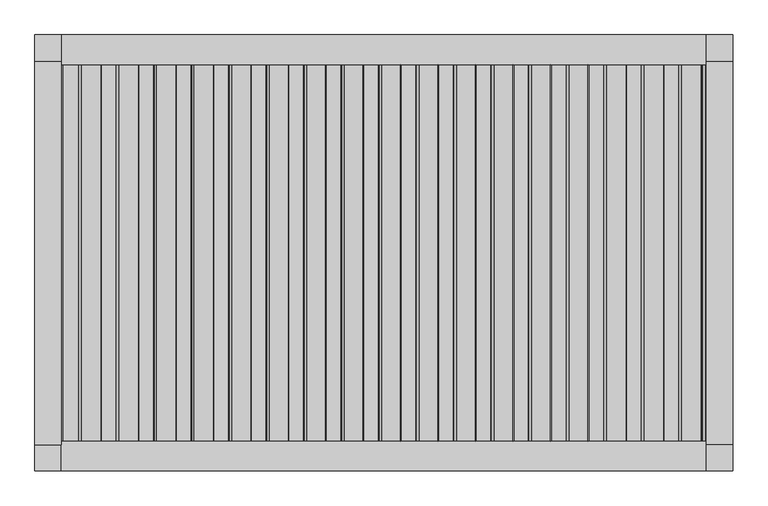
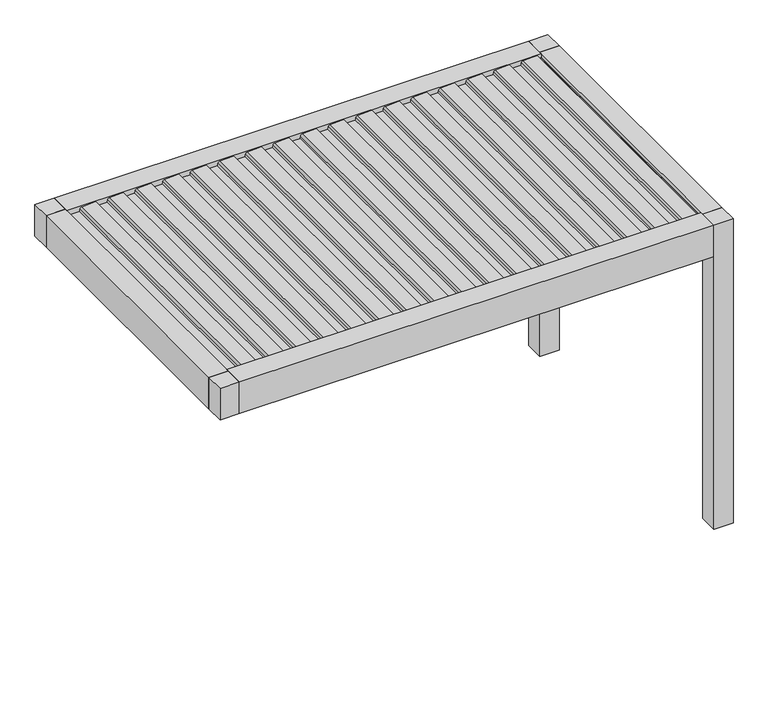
"""IFC4 building model written with IfcOpenShell, lengths in millimetres: proxy geometry, Renson_Camargue_Skye_Facade-Mounted_Patio covers : Renson_Camargue_Skye_Facade-Mounted_Patio covers."""

from ifc_helpers import new_model, si_unit, point, frame, frame_2d, origin, origin_with_axes, place, context, project, spatial, polyline, circle_curve, trimmed, segment, composite_curve, outline, extrude, source, transform, mapped, element, save


def generic_models_d841620f(model_context):
    return source(origin(), model_context, "Body", "SweptSolid", [
        extrude(outline(composite_curve([segment(polyline([(2458.35, 1573.7338351), (2486.01198, 1576.1539448), (2487.3970364, 1604.9891952), (2506.8911096, 1601.5518641), (2501.6075693, 1491.5547493)]), True, "CONTINUOUS"), segment(trimmed(circle_curve(frame_2d((2486.6248435, 1492.2744212)), 15.0), [point((2501.6075693, 1491.5547493))], [point((2489.2295662, 1477.5023049))], False, "CARTESIAN"), True, "CONTINUOUS"), segment(polyline([(2489.2295662, 1477.5023049), (2470.0, 1474.1116136), (2470.0, 1386.3758376), (2487.0788237, 1383.3643801), (2486.3450182, 1368.0874097), (2458.35, 1365.6381629), (2458.35, 1573.7338351)]), True, "CONTINUOUS")], self_intersect=False)), frame((0.0, -1080.0, 0.0), z_axis=(0.0, 1.0, 0.0), x_axis=(0.0, 0.0, 1.0)), (0.0, 0.0, 1.0), 2160.0),
        extrude(outline(composite_curve([segment(polyline([(2458.35, 1358.7230303), (2486.01198, 1361.14314), (2487.3970364, 1389.9783904), (2506.8911096, 1386.5410594), (2501.6075693, 1276.5439445)]), True, "CONTINUOUS"), segment(trimmed(circle_curve(frame_2d((2486.6248435, 1277.2636164)), 15.0), [point((2501.6075693, 1276.5439445))], [point((2489.2295662, 1262.4915001))], False, "CARTESIAN"), True, "CONTINUOUS"), segment(polyline([(2489.2295662, 1262.4915001), (2470.0, 1259.1008088), (2470.0, 1171.3650328), (2487.0788237, 1168.3535754), (2486.3450182, 1153.0766049), (2458.35, 1150.6273582), (2458.35, 1358.7230303)]), True, "CONTINUOUS")], self_intersect=False)), frame((0.0, -1080.0, 0.0), z_axis=(0.0, 1.0, 0.0), x_axis=(0.0, 0.0, 1.0)), (0.0, 0.0, 1.0), 2160.0),
        extrude(outline(composite_curve([segment(polyline([(2458.35, 1143.7122255), (2486.01198, 1146.1323352), (2487.3970364, 1174.9675857), (2506.8911096, 1171.5302546), (2501.6075693, 1061.5331397)]), True, "CONTINUOUS"), segment(trimmed(circle_curve(frame_2d((2486.6248435, 1062.2528117)), 15.0), [point((2501.6075693, 1061.5331397))], [point((2489.2295662, 1047.4806954))], False, "CARTESIAN"), True, "CONTINUOUS"), segment(polyline([(2489.2295662, 1047.4806954), (2470.0, 1044.090004), (2470.0, 956.354228), (2487.0788237, 953.3427706), (2486.3450182, 938.0658001), (2458.35, 935.6165534), (2458.35, 1143.7122255)]), True, "CONTINUOUS")], self_intersect=False)), frame((0.0, -1080.0, 0.0), z_axis=(0.0, 1.0, 0.0), x_axis=(0.0, 0.0, 1.0)), (0.0, 0.0, 1.0), 2160.0),
        extrude(outline(composite_curve([segment(polyline([(2458.35, 928.7014208), (2486.01198, 931.1215304), (2487.3970364, 959.9567809), (2506.8911096, 956.5194498), (2501.6075693, 846.5223349)]), True, "CONTINUOUS"), segment(trimmed(circle_curve(frame_2d((2486.6248435, 847.2420069)), 15.0), [point((2501.6075693, 846.5223349))], [point((2489.2295662, 832.4698906))], False, "CARTESIAN"), True, "CONTINUOUS"), segment(polyline([(2489.2295662, 832.4698906), (2470.0, 829.0791992), (2470.0, 741.3434232), (2487.0788237, 738.3319658), (2486.3450182, 723.0549953), (2458.35, 720.6057486), (2458.35, 928.7014208)]), True, "CONTINUOUS")], self_intersect=False)), frame((0.0, -1080.0, 0.0), z_axis=(0.0, 1.0, 0.0), x_axis=(0.0, 0.0, 1.0)), (0.0, 0.0, 1.0), 2160.0),
        extrude(outline(composite_curve([segment(polyline([(2458.35, 713.690616), (2486.01198, 716.1107256), (2487.3970364, 744.9459761), (2506.8911096, 741.508645), (2501.6075693, 631.5115302)]), True, "CONTINUOUS"), segment(trimmed(circle_curve(frame_2d((2486.6248435, 632.2312021)), 15.0), [point((2501.6075693, 631.5115302))], [point((2489.2295662, 617.4590858))], False, "CARTESIAN"), True, "CONTINUOUS"), segment(polyline([(2489.2295662, 617.4590858), (2470.0, 614.0683945), (2470.0, 526.3326184), (2487.0788237, 523.321161), (2486.3450182, 508.0441905), (2458.35, 505.5949438), (2458.35, 713.690616)]), True, "CONTINUOUS")], self_intersect=False)), frame((0.0, -1080.0, 0.0), z_axis=(0.0, 1.0, 0.0), x_axis=(0.0, 0.0, 1.0)), (0.0, 0.0, 1.0), 2160.0),
        extrude(outline(composite_curve([segment(polyline([(2458.35, 498.6798112), (2486.01198, 501.0999209), (2487.3970364, 529.9351713), (2506.8911096, 526.4978402), (2501.6075693, 416.5007254)]), True, "CONTINUOUS"), segment(trimmed(circle_curve(frame_2d((2486.6248435, 417.2203973)), 15.0), [point((2501.6075693, 416.5007254))], [point((2489.2295662, 402.448281))], False, "CARTESIAN"), True, "CONTINUOUS"), segment(polyline([(2489.2295662, 402.448281), (2470.0, 399.0575897), (2470.0, 311.3218136), (2487.0788237, 308.3103562), (2486.3450182, 293.0333858), (2458.35, 290.584139), (2458.35, 498.6798112)]), True, "CONTINUOUS")], self_intersect=False)), frame((0.0, -1080.0, 0.0), z_axis=(0.0, 1.0, 0.0), x_axis=(0.0, 0.0, 1.0)), (0.0, 0.0, 1.0), 2160.0),
        extrude(outline(composite_curve([segment(polyline([(2458.35, 283.6690064), (2486.01198, 286.0891161), (2487.3970364, 314.9243665), (2506.8911096, 311.4870355), (2501.6075693, 201.4899206)]), True, "CONTINUOUS"), segment(trimmed(circle_curve(frame_2d((2486.6248435, 202.2095925)), 15.0), [point((2501.6075693, 201.4899206))], [point((2489.2295662, 187.4374762))], False, "CARTESIAN"), True, "CONTINUOUS"), segment(polyline([(2489.2295662, 187.4374762), (2470.0, 184.0467849), (2470.0, 96.3110089), (2487.0788237, 93.2995515), (2486.3450182, 78.022581), (2458.35, 75.5733343), (2458.35, 283.6690064)]), True, "CONTINUOUS")], self_intersect=False)), frame((0.0, -1080.0, 0.0), z_axis=(0.0, 1.0, 0.0), x_axis=(0.0, 0.0, 1.0)), (0.0, 0.0, 1.0), 2160.0),
        extrude(outline(composite_curve([segment(polyline([(2458.35, 68.6582016), (2486.01198, 71.0783113), (2487.3970364, 99.9135617), (2506.8911096, 96.4762307), (2501.6075693, -13.5208842)]), True, "CONTINUOUS"), segment(trimmed(circle_curve(frame_2d((2486.6248435, -12.8012122)), 15.0), [point((2501.6075693, -13.5208842))], [point((2489.2295662, -27.5733285))], False, "CARTESIAN"), True, "CONTINUOUS"), segment(polyline([(2489.2295662, -27.5733285), (2470.0, -30.9640199), (2470.0, -118.6997959), (2487.0788237, -121.7112533), (2486.3450182, -136.9882238), (2458.35, -139.4374705), (2458.35, 68.6582016)]), True, "CONTINUOUS")], self_intersect=False)), frame((0.0, -1080.0, 0.0), z_axis=(0.0, 1.0, 0.0), x_axis=(0.0, 0.0, 1.0)), (0.0, 0.0, 1.0), 2160.0),
        extrude(outline(composite_curve([segment(polyline([(2458.35, -146.3526032), (2486.01198, -143.9324935), (2487.3970364, -115.097243), (2506.8911096, -118.5345741), (2501.6075693, -228.531689)]), True, "CONTINUOUS"), segment(trimmed(circle_curve(frame_2d((2486.6248435, -227.812017)), 15.0), [point((2501.6075693, -228.531689))], [point((2489.2295662, -242.5841333))], False, "CARTESIAN"), True, "CONTINUOUS"), segment(polyline([(2489.2295662, -242.5841333), (2470.0, -245.9748247), (2470.0, -333.7106007), (2487.0788237, -336.7220581), (2486.3450182, -351.9990286), (2458.35, -354.4482753), (2458.35, -146.3526032)]), True, "CONTINUOUS")], self_intersect=False)), frame((0.0, -1080.0, 0.0), z_axis=(0.0, 1.0, 0.0), x_axis=(0.0, 0.0, 1.0)), (0.0, 0.0, 1.0), 2160.0),
        extrude(outline(composite_curve([segment(polyline([(2458.35, -361.3634079), (2486.01198, -358.9432983), (2487.3970364, -330.1080478), (2506.8911096, -333.5453789), (2501.6075693, -443.5424937)]), True, "CONTINUOUS"), segment(trimmed(circle_curve(frame_2d((2486.6248435, -442.8228218)), 15.0), [point((2501.6075693, -443.5424937))], [point((2489.2295662, -457.5949381))], False, "CARTESIAN"), True, "CONTINUOUS"), segment(polyline([(2489.2295662, -457.5949381), (2470.0, -460.9856294), (2470.0, -548.7214055), (2487.0788237, -551.7328629), (2486.3450182, -567.0098334), (2458.35, -569.4590801), (2458.35, -361.3634079)]), True, "CONTINUOUS")], self_intersect=False)), frame((0.0, -1080.0, 0.0), z_axis=(0.0, 1.0, 0.0), x_axis=(0.0, 0.0, 1.0)), (0.0, 0.0, 1.0), 2160.0),
        extrude(outline(composite_curve([segment(polyline([(2458.35, -576.3742127), (2486.01198, -573.9541031), (2487.3970364, -545.1188526), (2506.8911096, -548.5561837), (2501.6075693, -658.5532985)]), True, "CONTINUOUS"), segment(trimmed(circle_curve(frame_2d((2486.6248435, -657.8336266)), 15.0), [point((2501.6075693, -658.5532985))], [point((2489.2295662, -672.6057429))], False, "CARTESIAN"), True, "CONTINUOUS"), segment(polyline([(2489.2295662, -672.6057429), (2470.0, -675.9964342), (2470.0, -763.7322103), (2487.0788237, -766.7436677), (2486.3450182, -782.0206381), (2458.35, -784.4698849), (2458.35, -576.3742127)]), True, "CONTINUOUS")], self_intersect=False)), frame((0.0, -1080.0, 0.0), z_axis=(0.0, 1.0, 0.0), x_axis=(0.0, 0.0, 1.0)), (0.0, 0.0, 1.0), 2160.0),
        extrude(outline(composite_curve([segment(polyline([(2458.35, -791.3850175), (2486.01198, -788.9649078), (2487.3970364, -760.1296574), (2506.8911096, -763.5669885), (2501.6075693, -873.5641033)]), True, "CONTINUOUS"), segment(trimmed(circle_curve(frame_2d((2486.6248435, -872.8444314)), 15.0), [point((2501.6075693, -873.5641033))], [point((2489.2295662, -887.6165477))], False, "CARTESIAN"), True, "CONTINUOUS"), segment(polyline([(2489.2295662, -887.6165477), (2470.0, -891.007239), (2470.0, -978.743015), (2487.0788237, -981.7544725), (2486.3450182, -997.0314429), (2458.35, -999.4806897), (2458.35, -791.3850175)]), True, "CONTINUOUS")], self_intersect=False)), frame((0.0, -1080.0, 0.0), z_axis=(0.0, 1.0, 0.0), x_axis=(0.0, 0.0, 1.0)), (0.0, 0.0, 1.0), 2160.0),
        extrude(outline(composite_curve([segment(polyline([(2458.35, -1006.3958223), (2486.01198, -1003.9757126), (2487.3970364, -975.1404622), (2506.8911096, -978.5777932), (2501.6075693, -1088.5749081)]), True, "CONTINUOUS"), segment(trimmed(circle_curve(frame_2d((2486.6248435, -1087.8552362)), 15.0), [point((2501.6075693, -1088.5749081))], [point((2489.2295662, -1102.6273525))], False, "CARTESIAN"), True, "CONTINUOUS"), segment(polyline([(2489.2295662, -1102.6273525), (2470.0, -1106.0180438), (2470.0, -1193.7538198), (2487.0788237, -1196.7652772), (2486.3450182, -1212.0422477), (2458.35, -1214.4914944), (2458.35, -1006.3958223)]), True, "CONTINUOUS")], self_intersect=False)), frame((0.0, -1080.0, 0.0), z_axis=(0.0, 1.0, 0.0), x_axis=(0.0, 0.0, 1.0)), (0.0, 0.0, 1.0), 2160.0),
        extrude(outline(composite_curve([segment(polyline([(2458.35, -1221.4066271), (2486.01198, -1218.9865174), (2487.3970364, -1190.1512669), (2506.8911096, -1193.588598), (2501.6075693, -1303.5857129)]), True, "CONTINUOUS"), segment(trimmed(circle_curve(frame_2d((2486.6248435, -1302.8660409)), 15.0), [point((2501.6075693, -1303.5857129))], [point((2489.2295662, -1317.6381572))], False, "CARTESIAN"), True, "CONTINUOUS"), segment(polyline([(2489.2295662, -1317.6381572), (2470.0, -1321.0288486), (2470.0, -1408.7646246), (2487.0788237, -1411.776082), (2486.3450182, -1427.0530525), (2458.35, -1429.5022992), (2458.35, -1221.4066271)]), True, "CONTINUOUS")], self_intersect=False)), frame((0.0, -1080.0, 0.0), z_axis=(0.0, 1.0, 0.0), x_axis=(0.0, 0.0, 1.0)), (0.0, 0.0, 1.0), 2160.0),
        extrude(outline(composite_curve([segment(polyline([(2458.35, -1436.4174318), (2486.01198, -1433.9973222), (2487.3970364, -1405.1620717), (2506.8911096, -1408.5994028), (2501.6075693, -1518.5965176)]), True, "CONTINUOUS"), segment(trimmed(circle_curve(frame_2d((2486.6248435, -1517.8768457)), 15.0), [point((2501.6075693, -1518.5965176))], [point((2489.2295662, -1532.648962))], False, "CARTESIAN"), True, "CONTINUOUS"), segment(polyline([(2489.2295662, -1532.648962), (2470.0, -1536.0396534), (2470.0, -1623.7754294), (2487.0788237, -1626.7868868), (2486.3450182, -1642.0638573), (2458.35, -1644.513104), (2458.35, -1436.4174318)]), True, "CONTINUOUS")], self_intersect=False)), frame((0.0, -1080.0, 0.0), z_axis=(0.0, 1.0, 0.0), x_axis=(0.0, 0.0, 1.0)), (0.0, 0.0, 1.0), 2160.0),
        extrude(outline(composite_curve([segment(polyline([(2458.35, 1788.7446399), (2486.01198, 1791.1647495), (2487.3970364, 1820.0), (2506.8911096, 1816.5626689), (2501.6075693, 1706.5655541)]), True, "CONTINUOUS"), segment(trimmed(circle_curve(frame_2d((2486.6248435, 1707.285226)), 15.0), [point((2501.6075693, 1706.5655541))], [point((2489.2295662, 1692.5131097))], False, "CARTESIAN"), True, "CONTINUOUS"), segment(polyline([(2489.2295662, 1692.5131097), (2470.0, 1689.1224184), (2470.0, 1601.3866423), (2487.0788237, 1598.3751849), (2486.3450182, 1583.0982144), (2458.35, 1580.6489677), (2458.35, 1788.7446399)]), True, "CONTINUOUS")], self_intersect=False)), frame((0.0, -1080.0, 0.0), z_axis=(0.0, 1.0, 0.0), x_axis=(0.0, 0.0, 1.0)), (0.0, 0.0, 1.0), 2160.0),
        extrude(outline(composite_curve([segment(polyline([(2458.35, -1651.4282366), (2486.01198, -1649.008127), (2487.3970364, -1620.1728765), (2506.8911096, -1623.6102076), (2501.6075693, -1733.6073224)]), True, "CONTINUOUS"), segment(trimmed(circle_curve(frame_2d((2486.6248435, -1732.8876505)), 15.0), [point((2501.6075693, -1733.6073224))], [point((2489.2295662, -1747.6597668))], False, "CARTESIAN"), True, "CONTINUOUS"), segment(polyline([(2489.2295662, -1747.6597668), (2470.0, -1751.0504581), (2470.0, -1838.7862342), (2487.0788237, -1841.7976916), (2486.3450182, -1857.0746621), (2458.35, -1859.5239088), (2458.35, -1651.4282366)]), True, "CONTINUOUS")], self_intersect=False)), frame((0.0, -1080.0, 0.0), z_axis=(0.0, 1.0, 0.0), x_axis=(0.0, 0.0, 1.0)), (0.0, 0.0, 1.0), 2160.0),
        extrude(outline(polyline([(-1850.0, 1250.0), (-1850.0, 1100.0), (-2000.0, 1100.0), (-2000.0, 1250.0), (-1850.0, 1250.0)])), frame((0.0, 0.0, 2250.0), z_axis=(0.0, 0.0, 1.0), x_axis=(1.0, 0.0, 0.0)), (0.0, 0.0, 1.0), 260.0),
        extrude(outline(polyline([(2000.0, -1100.0), (2000.0, -1250.0), (1850.0, -1250.0), (1850.0, -1100.0), (2000.0, -1100.0)])), origin_with_axes(), (0.0, 0.0, 1.0), 2510.0),
        extrude(outline(polyline([(2000.0, 1250.0), (2000.0, 1100.0), (1850.0, 1100.0), (1850.0, 1250.0), (2000.0, 1250.0)])), origin_with_axes(), (0.0, 0.0, 1.0), 2510.0),
        extrude(outline(polyline([(2441.6559373, -1850.0), (2441.6559373, -1824.0), (2455.6555802, -1820.2487113), (2455.6555802, -1829.5940945), (2471.400763, -1845.0), (2479.2449277, -1845.0), (2479.6823598, -1850.0), (2441.6559373, -1850.0)])), frame((0.0, -1100.0, 0.0), z_axis=(0.0, 1.0, 0.0), x_axis=(0.0, 0.0, 1.0)), (0.0, 0.0, 1.0), 2200.0),
        extrude(outline(polyline([(-1850.0, -1100.0), (-2000.0, -1100.0), (-2000.0, 1100.0), (-1850.0, 1100.0), (-1850.0, -1100.0)])), frame((0.0, 0.0, 2250.0), z_axis=(0.0, 0.0, 1.0), x_axis=(1.0, 0.0, 0.0)), (0.0, 0.0, 1.0), 260.0),
        extrude(outline(polyline([(2510.0, 2000.0), (2510.0, 1850.0), (2479.6904658, 1850.0), (2479.2449277, 1845.0), (2471.400763, 1845.0), (2455.6555802, 1829.2544156), (2455.6555802, 1819.9090324), (2441.6559373, 1823.6603211), (2441.6559373, 1850.0), (2250.0, 1850.0), (2250.0, 2000.0), (2510.0, 2000.0)])), frame((0.0, -1100.0, 0.0), z_axis=(0.0, 1.0, 0.0), x_axis=(0.0, 0.0, 1.0)), (0.0, 0.0, 1.0), 2200.0),
        extrude(outline(polyline([(-1080.0, 2510.0), (-1080.0, 2322.0), (-1020.0, 2322.0), (-1020.0, 2250.0), (-1250.0, 2250.0), (-1250.0, 2510.0), (-1080.0, 2510.0)])), frame((-1850.0, 0.0, 0.0), z_axis=(1.0, 0.0, 0.0), x_axis=(0.0, 1.0, 0.0)), (0.0, 0.0, 1.0), 3700.0),
        extrude(outline(polyline([(1250.0, 2250.0), (1020.0, 2250.0), (1020.0, 2322.0), (1080.0, 2322.0), (1080.0, 2510.0), (1250.0, 2510.0), (1250.0, 2250.0)])), frame((-1850.0, 0.0, 0.0), z_axis=(1.0, 0.0, 0.0), x_axis=(0.0, 1.0, 0.0)), (0.0, 0.0, 1.0), 3700.0),
        extrude(outline(polyline([(2000.0, -1100.0), (2000.0, -1250.0), (1850.0, -1250.0), (1850.0, -1100.0), (2000.0, -1100.0)])), frame((0.0, 0.0, 2250.0), z_axis=(0.0, 0.0, 1.0), x_axis=(1.0, 0.0, 0.0)), (0.0, 0.0, 1.0), 260.0),
        extrude(outline(polyline([(-1850.0, -1100.0), (-1850.0, -1250.0), (-2000.0, -1250.0), (-2000.0, -1100.0), (-1850.0, -1100.0)])), frame((0.0, 0.0, 2250.0), z_axis=(0.0, 0.0, 1.0), x_axis=(1.0, 0.0, 0.0)), (0.0, 0.0, 1.0), 260.0),
    ])


if __name__ == "__main__":
    model = new_model("IFC4")
    model_context = context("Model", 3, world=origin())
    ifc_project = project(units=[si_unit("LENGTHUNIT", "METRE", prefix="MILLI")], contexts=[model_context])
    site = spatial("IfcSite", under=ifc_project)
    building = spatial("IfcBuilding", under=site)
    placement = place(None, origin())
    generic_models_shape = generic_models_d841620f(model_context)
    element("IfcBuildingElementProxy", 1, Name="Renson_Camargue_Skye_Facade-Mounted_Patio covers : Renson_Camargue_Skye_Facade-Mounted_Patio covers", ObjectType="Renson_Camargue_Skye_Facade-Mounted_Patio covers : Renson_Camargue_Skye_Facade-Mounted_Patio covers", at=placement, inside=building, context=model_context, shape_type="MappedRepresentation", body=[
        mapped(generic_models_shape, transform((0.0, 0.0, 0.0), x_axis=(1.0, 0.0, 0.0), y_axis=(0.0, 1.0, 0.0), z_axis=(0.0, 0.0, 1.0))),
    ])
    save(model, "model.ifc")
